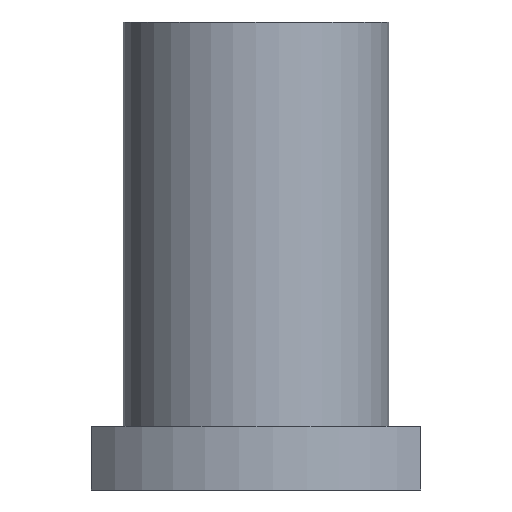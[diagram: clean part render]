
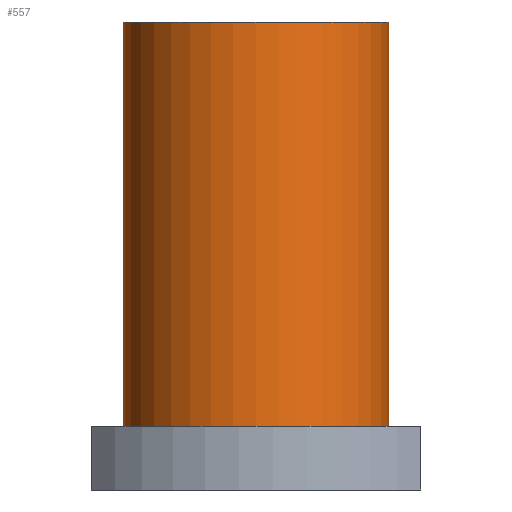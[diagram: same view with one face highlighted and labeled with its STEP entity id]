
A CAD part, front view. The second image highlights one B-rep face of the part: STEP entity #557.
In plain terms, the highlighted cylindrical face has radius 25 mm (diameter 50 mm), a partial arc.
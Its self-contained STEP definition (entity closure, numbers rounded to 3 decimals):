
#131=CARTESIAN_POINT('',(0.,0.,88.));
#132=DIRECTION('',(0.,0.,1.));
#133=DIRECTION('',(-1.,0.,0.));
#134=AXIS2_PLACEMENT_3D('',#131,#132,#133);
#151=DIRECTION('',(0.,0.,-1.));
#152=VECTOR('',#151,76.);
#153=CARTESIAN_POINT('',(25.,0.,88.));
#154=LINE('',#153,#152);
#155=DIRECTION('',(0.,0.,-1.));
#156=VECTOR('',#155,76.);
#157=CARTESIAN_POINT('',(-25.,0.,88.));
#158=LINE('',#157,#156);
#159=CARTESIAN_POINT('',(0.,0.,12.));
#160=DIRECTION('',(0.,0.,-1.));
#161=DIRECTION('',(1.,0.,0.));
#162=AXIS2_PLACEMENT_3D('',#159,#160,#161);
#351=CARTESIAN_POINT('',(25.,0.,12.));
#352=CARTESIAN_POINT('',(-25.,0.,12.));
#353=VERTEX_POINT('',#351);
#354=VERTEX_POINT('',#352);
#355=CARTESIAN_POINT('',(-25.,0.,88.));
#356=CARTESIAN_POINT('',(25.,0.,88.));
#357=VERTEX_POINT('',#355);
#358=VERTEX_POINT('',#356);
#543=CARTESIAN_POINT('',(0.,0.,88.));
#544=DIRECTION('',(0.,0.,1.));
#545=DIRECTION('',(1.,0.,0.));
#546=AXIS2_PLACEMENT_3D('',#543,#544,#545);
#547=CYLINDRICAL_SURFACE('',#546,25.);
#548=ORIENTED_EDGE('',*,*,#532,.T.);
#550=ORIENTED_EDGE('',*,*,#549,.T.);
#552=ORIENTED_EDGE('',*,*,#551,.T.);
#554=ORIENTED_EDGE('',*,*,#553,.F.);
#555=EDGE_LOOP('',(#548,#550,#552,#554));
#556=FACE_OUTER_BOUND('',#555,.F.);
#135=CIRCLE('',#134,25.);
#163=CIRCLE('',#162,25.);
#532=EDGE_CURVE('',#357,#358,#135,.T.);
#549=EDGE_CURVE('',#358,#353,#154,.T.);
#551=EDGE_CURVE('',#353,#354,#163,.T.);
#553=EDGE_CURVE('',#357,#354,#158,.T.);
#557=ADVANCED_FACE('',(#556),#547,.T.);
